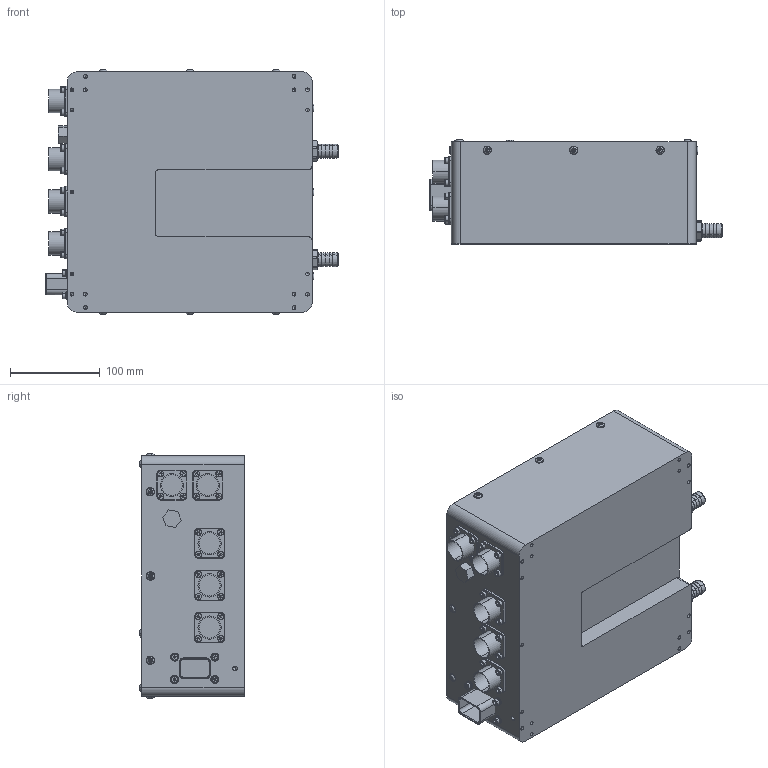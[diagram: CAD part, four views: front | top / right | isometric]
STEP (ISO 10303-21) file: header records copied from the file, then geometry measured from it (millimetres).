
FILE_DESCRIPTION (( 'STEP AP214' ), '1' );
FILE_NAME ('ﾐﾃﾋﾑ.435432.003 ﾑﾀﾝ-ﾒﾈ45-04-ﾀ1.STEP', '2026-08-24T13:12:25', ( '' ), ( '' ), 'SwSTEP 2.0', 'SolidWorks 2022', '' );
FILE_SCHEMA (( 'AUTOMOTIVE_DESIGN' ));
Length unit declared in the file: millimetre
Products named in the file (1): РГЛС.435432.003 САЭ-ТИ45-04-А1
Bounding box: 325.9 x 116.2 x 272.4 mm (x, y, z)
Volume: 8120814.2 mm3; surface area: 344000.4 mm2
Topology: 63 solids, 68 shells, 1885 faces, 4230 edges, 2563 vertices
Faces by surface type: plane 850, cylinder 562, cone 233, torus 196, bspline 44
Entity records: 79006 total; most frequent: CARTESIAN_POINT 16023, DIRECTION 9003, ORIENTED_EDGE 8272, EDGE_CURVE 4136, AXIS2_PLACEMENT_3D 3373, VERTEX_POINT 2559, VECTOR 2257, LINE 2257
